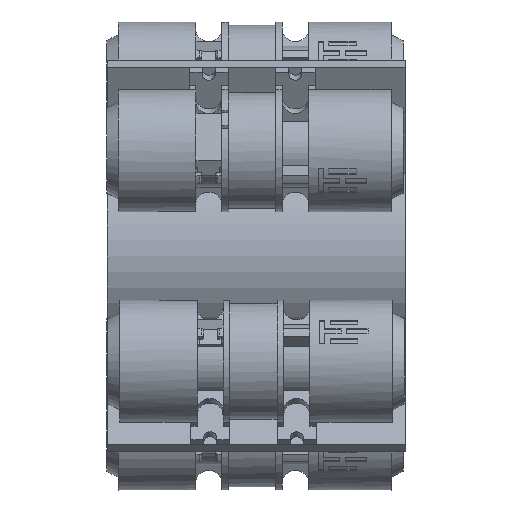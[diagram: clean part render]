
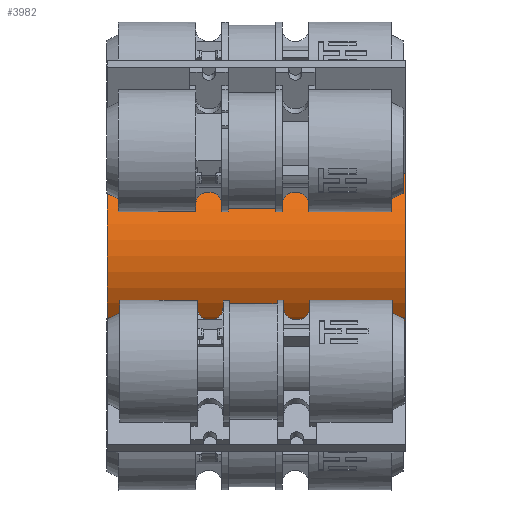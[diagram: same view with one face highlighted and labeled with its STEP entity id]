
A CAD part, left-side view. The second image highlights one B-rep face of the part: STEP entity #3982.
In plain terms, the highlighted cylindrical face has radius 7.75 mm (diameter 15.5 mm), a partial arc.
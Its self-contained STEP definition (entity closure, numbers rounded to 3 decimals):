
#446=FACE_OUTER_BOUND('',#665,.T.);
#665=EDGE_LOOP('',(#3651,#3652,#3653,#3654));
#1080=LINE('',#6682,#1501);
#1081=LINE('',#6684,#1502);
#1501=VECTOR('',#5485,10.);
#1502=VECTOR('',#5486,10.);
#1654=CIRCLE('',#4338,7.75);
#1665=CIRCLE('',#4362,7.75);
#2000=VERTEX_POINT('',#6605);
#2001=VERTEX_POINT('',#6607);
#2024=VERTEX_POINT('',#6681);
#2025=VERTEX_POINT('',#6683);
#2539=EDGE_CURVE('',#2000,#2001,#1654,.F.);
#2577=EDGE_CURVE('',#2001,#2024,#1080,.T.);
#2578=EDGE_CURVE('',#2025,#2000,#1081,.T.);
#2579=EDGE_CURVE('',#2025,#2024,#1665,.F.);
#3651=ORIENTED_EDGE('',*,*,#2577,.F.);
#3652=ORIENTED_EDGE('',*,*,#2539,.F.);
#3653=ORIENTED_EDGE('',*,*,#2578,.F.);
#3654=ORIENTED_EDGE('',*,*,#2579,.T.);
#3790=CYLINDRICAL_SURFACE('',#4361,7.75);
#3982=ADVANCED_FACE('',(#446),#3790,.T.);
#4338=AXIS2_PLACEMENT_3D('',#6608,#5410,#5411);
#4361=AXIS2_PLACEMENT_3D('',#6680,#5483,#5484);
#4362=AXIS2_PLACEMENT_3D('',#6685,#5487,#5488);
#5410=DIRECTION('center_axis',(0.,-1.,0.));
#5411=DIRECTION('ref_axis',(1.,0.,0.));
#5483=DIRECTION('center_axis',(0.,1.,0.));
#5484=DIRECTION('ref_axis',(-1.,0.,0.));
#5485=DIRECTION('',(0.,-1.,0.));
#5486=DIRECTION('',(0.,1.,0.));
#5487=DIRECTION('center_axis',(0.,-1.,0.));
#5488=DIRECTION('ref_axis',(1.,0.,0.));
#6605=CARTESIAN_POINT('',(-4.3,23.2,-6.448));
#6607=CARTESIAN_POINT('',(-4.3,23.2,6.448));
#6608=CARTESIAN_POINT('Origin',(0.,23.2,0.));
#6680=CARTESIAN_POINT('Origin',(0.,0.,0.));
#6681=CARTESIAN_POINT('',(-4.3,0.,6.448));
#6682=CARTESIAN_POINT('',(-4.3,0.,6.448));
#6683=CARTESIAN_POINT('',(-4.3,0.,-6.448));
#6684=CARTESIAN_POINT('',(-4.3,0.,-6.448));
#6685=CARTESIAN_POINT('Origin',(0.,0.,0.));
